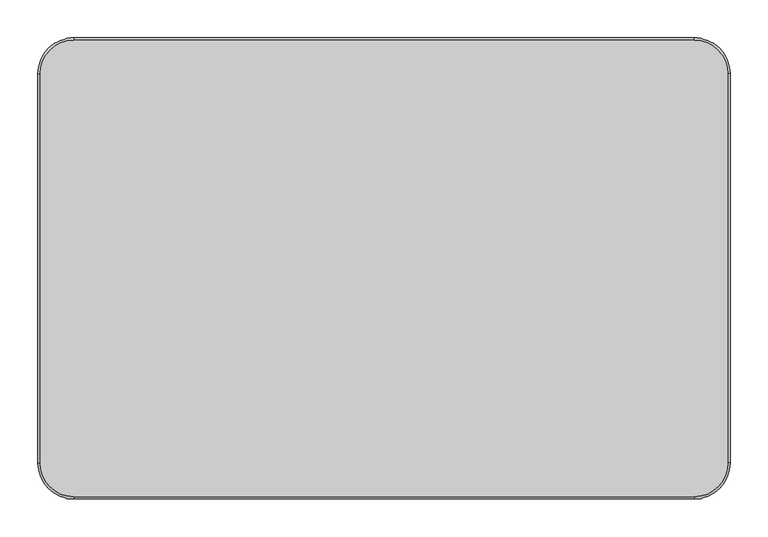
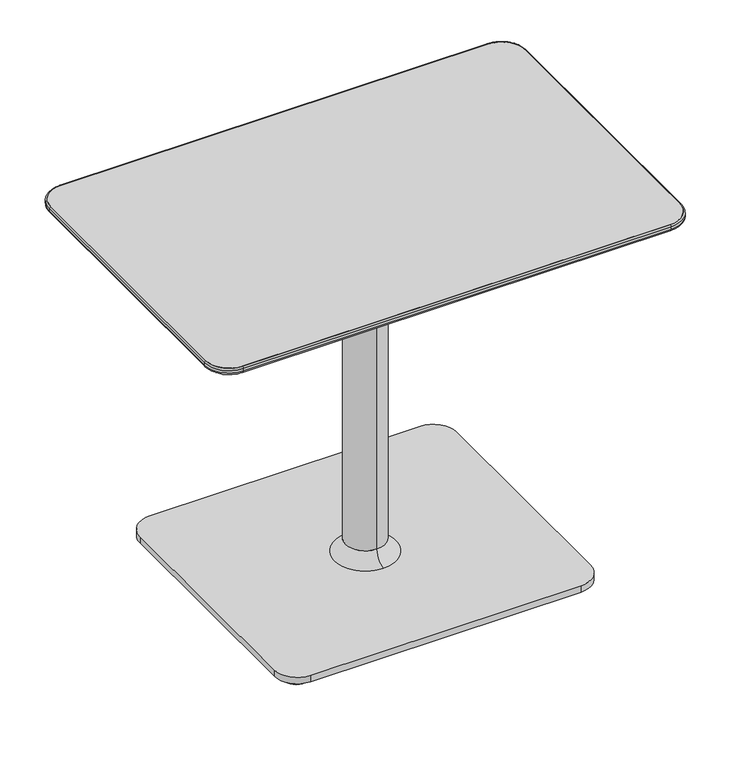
"""IFC4 building model written with IfcOpenShell, lengths in millimetres: furniture geometry, Coalesse_AM_Table_Occasional_Lagunitas_Work : 28.5H x 24D x 36W."""

from ifc_helpers import new_model, si_unit, point, frame, frame_2d, origin, origin_with_axes, place, context, project, spatial, polyline, circle_curve, ellipse_curve, trimmed, segment, composite_curve, outline, extrude, source, transform, mapped, element, save
from ifc_brep_helpers import plane_surface, cylinder_surface, revolved_surface, spline_surface, advanced_brep


def furniture_f47115b3(model_context):
    return source(origin(), model_context, "Body", "SolidModel", [
        advanced_brep(
        [(454.4570059, 257.3038988, 711.8724172), (410.0070059, 301.7538988, 711.8724172), (-409.3969941, 301.7538988, 711.8724172), (-453.8469941, 257.3038988, 711.8724172), (-453.8469941, -257.3038988, 711.8724172), (-409.3969941, -301.7538988, 711.8724172), (410.0070059, -301.7538988, 711.8724172), (454.4570059, -257.3038988, 711.8724172), (386.6389826, 233.9365202, 693.8099277), (386.6389826, -233.9365202, 693.8099277), (-386.0289709, -233.9365202, 693.8099277), (-386.0289709, 233.9365202, 693.8099277)],
        [
            (0, 1, circle_curve(frame((410.0070059, 257.3038988, 711.8724172), z_axis=(0.0, 0.0, 1.0), x_axis=(1.0, 0.0, 0.0)), 44.45)),
            (1, 2),
            (2, 3, circle_curve(frame((-409.3969941, 257.3038988, 711.8724172), z_axis=(0.0, 0.0, 1.0), x_axis=(1.0, 0.0, 0.0)), 44.45)),
            (3, 4),
            (4, 5, circle_curve(frame((-409.3969941, -257.3038988, 711.8724172), z_axis=(0.0, 0.0, 1.0), x_axis=(1.0, 0.0, 0.0)), 44.45)),
            (5, 6),
            (6, 7, circle_curve(frame((410.0070059, -257.3038988, 711.8724172), z_axis=(0.0, 0.0, 1.0), x_axis=(1.0, 0.0, 0.0)), 44.45)),
            (7, 0),
            (8, 9),
            (9, 10),
            (10, 11),
            (11, 8),
            (0, 8),
            (8, 1),
            (11, 2),
            (11, 3),
            (10, 4),
            (10, 5),
            (9, 6),
            (9, 7),
        ],
        [
            plane_surface(frame((0.3050059, 0.0, 711.8724172), z_axis=(0.0, 0.0, 1.0), x_axis=(-1.0, 0.0, 0.0))),
            plane_surface(frame((0.3050059, 0.0, 693.8099277), z_axis=(0.0, 0.0, -1.0), x_axis=(-1.0, 0.0, 0.0))),
            spline_surface(2, 1, [[(386.6389826, 233.9365202, 693.8099277), (454.4570059, 257.3038988, 711.8724172)], [(386.6389826, 233.9365202, 693.8099277), (454.4570059, 301.7538988, 711.8724172)], [(386.6389826, 233.9365202, 693.8099277), (410.0070059, 301.7538988, 711.8724172)]], [3, 3], [2, 2], [0.0, 1.0], [0.0, 1.0], weights=[[1.0, 1.0], [0.7071067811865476, 0.7071067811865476], [1.0, 1.0]]),
            plane_surface(frame((0.3050059, 233.9365202, 693.8099277), z_axis=(0.0, 0.25736805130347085, -0.9663134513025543), x_axis=(-1.0, 0.0, 0.0))),
            spline_surface(2, 1, [[(-386.0289709, 233.9365202, 693.8099277), (-409.3969941, 301.7538988, 711.8724172)], [(-386.0289709, 233.9365202, 693.8099277), (-453.84699409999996, 301.75389879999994, 711.8724172)], [(-386.0289709, 233.9365202, 693.8099277), (-453.8469941, 257.3038988, 711.8724172)]], [3, 3], [2, 2], [0.0, 1.0], [0.0, 1.0], weights=[[1.0, 1.0], [0.707106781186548, 0.707106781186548], [1.0, 1.0]]),
            plane_surface(frame((-386.0289709, 0.0, 693.8099277), z_axis=(-0.2573657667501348, 0.0, -0.9663140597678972), x_axis=(0.0, -1.0, 0.0))),
            spline_surface(2, 1, [[(-386.0289709, -233.9365202, 693.8099277), (-453.8469941, -257.3038988, 711.8724172)], [(-386.0289709, -233.9365202, 693.8099277), (-453.8469941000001, -301.75389880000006, 711.8724172)], [(-386.0289709, -233.9365202, 693.8099277), (-409.3969941, -301.7538988, 711.8724172)]], [3, 3], [2, 2], [0.0, 1.0], [0.0, 1.0], weights=[[1.0, 1.0], [0.7071067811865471, 0.7071067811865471], [1.0, 1.0]]),
            plane_surface(frame((0.3050059, -233.9365202, 693.8099277), z_axis=(0.0, -0.2573680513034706, -0.9663134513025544), x_axis=(1.0, 0.0, 0.0))),
            spline_surface(2, 1, [[(386.6389826, -233.9365202, 693.8099277), (410.0070059, -301.7538988, 711.8724172)], [(386.6389826, -233.9365202, 693.8099277), (454.4570059, -301.7538988, 711.8724172)], [(386.6389826, -233.9365202, 693.8099277), (454.4570059, -257.3038988, 711.8724172)]], [3, 3], [2, 2], [0.0, 1.0], [0.0, 1.0], weights=[[1.0, 1.0], [0.7071067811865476, 0.7071067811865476], [1.0, 1.0]]),
            plane_surface(frame((386.6389826, 0.0, 693.8099277), z_axis=(0.25736576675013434, 0.0, -0.9663140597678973), x_axis=(0.0, 1.0, 0.0))),
        ],
        [
            (0, [[1, 2, 3, 4, 5, 6, 7, 8]]),
            (1, [[9, 10, 11, 12]]),
            (2, [[-1, 13, 14]]),
            (3, [[-12, 15, -2, -14]]),
            (4, [[-3, -15, 16]]),
            (5, [[-11, 17, -4, -16]]),
            (6, [[-5, -17, 18]]),
            (7, [[-10, 19, -6, -18]]),
            (8, [[-7, -19, 20]]),
            (9, [[-9, -13, -8, -20]]),
        ],
    ),
        extrude(outline(composite_curve([segment(trimmed(circle_curve(frame_2d((410.0070059, 257.3038988)), 44.45), [point((410.0070059, 301.7538988))], [point((454.4570059, 257.3038988))], False, "CARTESIAN"), True, "CONTINUOUS"), segment(polyline([(454.4570059, 257.3038988), (454.4570059, -257.3038988)]), True, "CONTINUOUS"), segment(trimmed(circle_curve(frame_2d((410.0070059, -257.3038988)), 44.45), [point((454.4570059, -257.3038988))], [point((410.0070059, -301.7538988))], False, "CARTESIAN"), True, "CONTINUOUS"), segment(polyline([(410.0070059, -301.7538988), (-409.3969941, -301.7538988)]), True, "CONTINUOUS"), segment(trimmed(circle_curve(frame_2d((-409.3969941, -257.3038988)), 44.45), [point((-409.3969941, -301.7538988))], [point((-453.8469941, -257.3038988))], False, "CARTESIAN"), True, "CONTINUOUS"), segment(polyline([(-453.8469941, -257.3038988), (-453.8469941, 257.3038988)]), True, "CONTINUOUS"), segment(trimmed(circle_curve(frame_2d((-409.3969941, 257.3038988)), 44.45), [point((-453.8469941, 257.3038988))], [point((-409.3969941, 301.7538988))], False, "CARTESIAN"), True, "CONTINUOUS"), segment(polyline([(-409.3969941, 301.7538988), (410.0070059, 301.7538988)]), True, "CONTINUOUS")], self_intersect=False)), frame((0.0, 0.0, 711.8724172), z_axis=(0.0, 0.0, 1.0), x_axis=(1.0, 0.0, 0.0)), (0.0, 0.0, 1.0), 12.0275828),
        extrude(outline(composite_curve([segment(trimmed(circle_curve(frame_2d((-263.0703146, 226.8029495)), 25.4), [point((-288.4703146, 226.8029495))], [point((-237.6703146, 226.8029495))], False, "CARTESIAN"), True, "CONTINUOUS"), segment(trimmed(circle_curve(frame_2d((-263.0703146, 226.8029495)), 25.4), [point((-237.6703146, 226.8029495))], [point((-288.4703146, 226.8029495))], False, "CARTESIAN"), True, "CONTINUOUS")], self_intersect=False)), origin_with_axes(), (0.0, 0.0, 1.0), 10.6571495),
        extrude(outline(composite_curve([segment(trimmed(circle_curve(frame_2d((263.6803263, 226.8029495)), 25.4), [point((238.2803263, 226.8029495))], [point((289.0803263, 226.8029495))], False, "CARTESIAN"), True, "CONTINUOUS"), segment(trimmed(circle_curve(frame_2d((263.6803263, 226.8029495)), 25.4), [point((289.0803263, 226.8029495))], [point((238.2803263, 226.8029495))], False, "CARTESIAN"), True, "CONTINUOUS")], self_intersect=False)), origin_with_axes(), (0.0, 0.0, 1.0), 10.6571495),
        extrude(outline(composite_curve([segment(trimmed(circle_curve(frame_2d((263.6803263, -226.8029495)), 25.4), [point((238.2803263, -226.8029495))], [point((289.0803263, -226.8029495))], False, "CARTESIAN"), True, "CONTINUOUS"), segment(trimmed(circle_curve(frame_2d((263.6803263, -226.8029495)), 25.4), [point((289.0803263, -226.8029495))], [point((238.2803263, -226.8029495))], False, "CARTESIAN"), True, "CONTINUOUS")], self_intersect=False)), origin_with_axes(), (0.0, 0.0, 1.0), 10.6571495),
        extrude(outline(composite_curve([segment(trimmed(circle_curve(frame_2d((-263.0703146, -226.8029495)), 25.4), [point((-288.4703146, -226.8029495))], [point((-237.6703146, -226.8029495))], False, "CARTESIAN"), True, "CONTINUOUS"), segment(trimmed(circle_curve(frame_2d((-263.0703146, -226.8029495)), 25.4), [point((-237.6703146, -226.8029495))], [point((-288.4703146, -226.8029495))], False, "CARTESIAN"), True, "CONTINUOUS")], self_intersect=False)), origin_with_axes(), (0.0, 0.0, 1.0), 10.6571495),
        extrude(outline(composite_curve([segment(trimmed(circle_curve(frame_2d((259.1310059, 222.2481833)), 44.45), [point((259.1310059, 266.6981833))], [point((303.5810059, 222.2481833))], False, "CARTESIAN"), True, "CONTINUOUS"), segment(polyline([(303.5810059, 222.2481833), (303.5810059, -222.2481833)]), True, "CONTINUOUS"), segment(trimmed(circle_curve(frame_2d((259.1310059, -222.2481833)), 44.45), [point((303.5810059, -222.2481833))], [point((259.1310059, -266.6981833))], False, "CARTESIAN"), True, "CONTINUOUS"), segment(polyline([(259.1310059, -266.6981833), (-258.5209941, -266.6981833)]), True, "CONTINUOUS"), segment(trimmed(circle_curve(frame_2d((-258.5209941, -222.2481833)), 44.45), [point((-258.5209941, -266.6981833))], [point((-302.9709941, -222.2481833))], False, "CARTESIAN"), True, "CONTINUOUS"), segment(polyline([(-302.9709941, -222.2481833), (-302.9709941, 222.2481833)]), True, "CONTINUOUS"), segment(trimmed(circle_curve(frame_2d((-258.5209941, 222.2481833)), 44.45), [point((-302.9709941, 222.2481833))], [point((-258.5209941, 266.6981833))], False, "CARTESIAN"), True, "CONTINUOUS"), segment(polyline([(-258.5209941, 266.6981833), (259.1310059, 266.6981833)]), True, "CONTINUOUS")], self_intersect=False)), frame((0.0, 0.0, 10.6571495), z_axis=(0.0, 0.0, 1.0), x_axis=(1.0, 0.0, 0.0)), (0.0, 0.0, 1.0), 12.7000004),
        advanced_brep(
        [(-456.8930954, 257.3038988, 715.6656816), (-409.3969941, 304.8, 715.6656816), (-409.3969941, 301.7538988, 711.8724172), (-453.8469941, 257.3038988, 711.8724172), (-456.8930954, 257.3038988, 720.8538988), (-409.3969941, 304.8, 720.8538988), (-453.8469941, 257.3038988, 723.9), (-409.3969941, 301.7538988, 723.9), (-453.8469941, -257.3038988, 711.8724172), (-456.8930954, -257.3038988, 715.6656816), (-456.8930954, -257.3038988, 720.8538988), (-453.8469941, -257.3038988, 723.9), (-409.3969941, -304.8, 715.6656816), (-409.3969941, -301.7538988, 711.8724172), (-409.3969941, -304.8, 720.8538988), (-409.3969941, -301.7538988, 723.9), (410.0070059, -301.7538988, 711.8724172), (410.0070059, -304.8, 715.6656816), (410.0070059, -304.8, 720.8538988), (410.0070059, -301.7538988, 723.9), (457.5031071, -257.3038988, 715.6656816), (454.4570059, -257.3038988, 711.8724172), (457.5031071, -257.3038988, 720.8538988), (454.4570059, -257.3038988, 723.9), (454.4570059, 257.3038988, 711.8724172), (457.5031071, 257.3038988, 715.6656816), (457.5031071, 257.3038988, 720.8538988), (454.4570059, 257.3038988, 723.9), (410.0070059, 304.8, 715.6656816), (410.0070059, 301.7538988, 711.8724172), (410.0070059, 304.8, 720.8538988), (410.0070059, 301.7538988, 723.9)],
        [
            (0, 1, circle_curve(frame((-409.3969941, 257.3038988, 715.6656816), z_axis=(0.0, 0.0, -1.0), x_axis=(0.0, 1.0, 0.0)), 47.4961012)),
            (1, 2, circle_curve(frame((-409.3969941, 300.9151017, 715.6656816), z_axis=(-1.0, 0.0, 0.0), x_axis=(0.0, -1.0, 0.0)), 3.8848983)),
            (2, 3, circle_curve(frame((-409.3969941, 257.3038988, 711.8724172), z_axis=(0.0, 0.0, 1.0), x_axis=(0.0, 1.0, 0.0)), 44.45)),
            (3, 0, circle_curve(frame((-453.0081971, 257.3038988, 715.6656816), z_axis=(0.0, 1.0, 0.0), x_axis=(1.0, 0.0, 0.0)), 3.8848983)),
            (4, 5, circle_curve(frame((-409.3969941, 257.3038988, 720.8538988), z_axis=(0.0, 0.0, -1.0), x_axis=(0.0, 1.0, 0.0)), 47.4961012)),
            (5, 1),
            (0, 4),
            (6, 7, circle_curve(frame((-409.3969941, 257.3038988, 723.9), z_axis=(0.0, 0.0, -1.0), x_axis=(0.0, 1.0, 0.0)), 44.45)),
            (7, 5, circle_curve(frame((-409.3969941, 301.7538988, 720.8538988), z_axis=(-1.0, 0.0, 0.0), x_axis=(0.0, -1.0, 0.0)), 3.0461012)),
            (4, 6, circle_curve(frame((-453.8469941, 257.3038988, 720.8538988), z_axis=(0.0, 1.0, 0.0), x_axis=(1.0, 0.0, 0.0)), 3.0461012)),
            (2, 7),
            (6, 3),
            (3, 8),
            (8, 9, circle_curve(frame((-453.0081971, -257.3038988, 715.6656816), z_axis=(0.0, 1.0, 0.0), x_axis=(1.0, 0.0, 0.0)), 3.8848983)),
            (9, 0),
            (9, 10),
            (10, 4),
            (10, 11, circle_curve(frame((-453.8469941, -257.3038988, 720.8538988), z_axis=(0.0, 1.0, 0.0), x_axis=(1.0, 0.0, 0.0)), 3.0461012)),
            (11, 6),
            (11, 8),
            (12, 9, circle_curve(frame((-409.3969941, -257.3038988, 715.6656816), z_axis=(0.0, 0.0, -1.0), x_axis=(-1.0, 0.0, 0.0)), 47.4961012)),
            (8, 13, circle_curve(frame((-409.3969941, -257.3038988, 711.8724172), z_axis=(0.0, 0.0, 1.0), x_axis=(-1.0, 0.0, 0.0)), 44.45)),
            (13, 12, circle_curve(frame((-409.3969941, -300.9151017, 715.6656816), z_axis=(-1.0, 0.0, 0.0), x_axis=(0.0, 1.0, 0.0)), 3.8848983)),
            (14, 10, circle_curve(frame((-409.3969941, -257.3038988, 720.8538988), z_axis=(0.0, 0.0, -1.0), x_axis=(-1.0, 0.0, 0.0)), 47.4961012)),
            (12, 14),
            (15, 11, circle_curve(frame((-409.3969941, -257.3038988, 723.9), z_axis=(0.0, 0.0, -1.0), x_axis=(-1.0, 0.0, 0.0)), 44.45)),
            (14, 15, circle_curve(frame((-409.3969941, -301.7538988, 720.8538988), z_axis=(-1.0, 0.0, 0.0), x_axis=(0.0, 1.0, 0.0)), 3.0461012)),
            (15, 13),
            (13, 16),
            (16, 17, circle_curve(frame((410.0070059, -300.9151017, 715.6656816), z_axis=(-1.0, 0.0, 0.0), x_axis=(0.0, 1.0, 0.0)), 3.8848983)),
            (17, 12),
            (17, 18),
            (18, 14),
            (18, 19, circle_curve(frame((410.0070059, -301.7538988, 720.8538988), z_axis=(-1.0, 0.0, 0.0), x_axis=(0.0, 1.0, 0.0)), 3.0461012)),
            (19, 15),
            (19, 16),
            (20, 17, circle_curve(frame((410.0070059, -257.3038988, 715.6656816), z_axis=(0.0, 0.0, -1.0), x_axis=(0.0, -1.0, 0.0)), 47.4961012)),
            (16, 21, circle_curve(frame((410.0070059, -257.3038988, 711.8724172), z_axis=(0.0, 0.0, 1.0), x_axis=(0.0, -1.0, 0.0)), 44.45)),
            (21, 20, circle_curve(frame((453.6182088, -257.3038988, 715.6656816), z_axis=(0.0, -1.0, 0.0), x_axis=(-1.0, 0.0, 0.0)), 3.8848983)),
            (22, 18, circle_curve(frame((410.0070059, -257.3038988, 720.8538988), z_axis=(0.0, 0.0, -1.0), x_axis=(0.0, -1.0, 0.0)), 47.4961012)),
            (20, 22),
            (23, 19, circle_curve(frame((410.0070059, -257.3038988, 723.9), z_axis=(0.0, 0.0, -1.0), x_axis=(0.0, -1.0, 0.0)), 44.45)),
            (22, 23, circle_curve(frame((454.4570059, -257.3038988, 720.8538988), z_axis=(0.0, -1.0, 0.0), x_axis=(-1.0, 0.0, 0.0)), 3.0461012)),
            (23, 21),
            (21, 24),
            (24, 25, circle_curve(frame((453.6182088, 257.3038988, 715.6656816), z_axis=(0.0, -1.0, 0.0), x_axis=(-1.0, 0.0, 0.0)), 3.8848983)),
            (25, 20),
            (25, 26),
            (26, 22),
            (26, 27, circle_curve(frame((454.4570059, 257.3038988, 720.8538988), z_axis=(0.0, -1.0, 0.0), x_axis=(-1.0, 0.0, 0.0)), 3.0461012)),
            (27, 23),
            (27, 24),
            (28, 25, circle_curve(frame((410.0070059, 257.3038988, 715.6656816), z_axis=(0.0, 0.0, -1.0), x_axis=(1.0, 0.0, 0.0)), 47.4961012)),
            (24, 29, circle_curve(frame((410.0070059, 257.3038988, 711.8724172), z_axis=(0.0, 0.0, 1.0), x_axis=(1.0, 0.0, 0.0)), 44.45)),
            (29, 28, circle_curve(frame((410.0070059, 300.9151017, 715.6656816), z_axis=(1.0, 0.0, 0.0), x_axis=(0.0, -1.0, 0.0)), 3.8848983)),
            (30, 26, circle_curve(frame((410.0070059, 257.3038988, 720.8538988), z_axis=(0.0, 0.0, -1.0), x_axis=(1.0, 0.0, 0.0)), 47.4961012)),
            (28, 30),
            (31, 27, circle_curve(frame((410.0070059, 257.3038988, 723.9), z_axis=(0.0, 0.0, -1.0), x_axis=(1.0, 0.0, 0.0)), 44.45)),
            (30, 31, circle_curve(frame((410.0070059, 301.7538988, 720.8538988), z_axis=(1.0, 0.0, 0.0), x_axis=(0.0, -1.0, 0.0)), 3.0461012)),
            (31, 29),
            (29, 2),
            (1, 28),
            (5, 30),
            (7, 31),
        ],
        [
            revolved_surface(trimmed(ellipse_curve(frame((-409.3969941, 300.9151017, 715.6656816), z_axis=(1.0, 0.0, 0.0), x_axis=(0.0, -1.0, 0.0)), 3.8848983, 3.8848983), [point((-409.3969941, 301.7538988, 711.8724172))], [point((-409.3969941, 304.8, 715.6656816))], True, "CARTESIAN"), (-409.3969941, 257.3038988, 0.0), (0.0, 0.0, 1.0)),
            cylinder_surface(frame((-409.3969941, 257.3038988, 0.0), z_axis=(0.0, 0.0, 1.0), x_axis=(0.0, 1.0, 0.0)), 47.4961012),
            revolved_surface(trimmed(ellipse_curve(frame((-409.3969941, 301.7538988, 720.8538988), z_axis=(1.0, 0.0, 0.0), x_axis=(0.0, -1.0, 0.0)), 3.0461012, 3.0461012), [point((-409.3969941, 304.8, 720.8538988))], [point((-409.3969941, 301.7538988, 723.9))], True, "CARTESIAN"), (-409.3969941, 257.3038988, 0.0), (0.0, 0.0, 1.0)),
            revolved_surface(polyline([(-409.3969941, 301.7538988, 723.9), (-409.3969941, 301.7538988, 711.8724172)]), (-409.3969941, 257.3038988, 0.0), (0.0, 0.0, 1.0)),
            cylinder_surface(frame((-453.0081971, 257.3038988, 715.6656816), z_axis=(0.0, 1.0, 0.0), x_axis=(1.0, 0.0, 0.0)), 3.8848983),
            plane_surface(frame((-456.8930954, 257.3038988, 715.6656816), z_axis=(-1.0, 0.0, 0.0), x_axis=(0.0, -1.0, 0.0))),
            cylinder_surface(frame((-453.8469941, 257.3038988, 720.8538988), z_axis=(0.0, 1.0, 0.0), x_axis=(1.0, 0.0, 0.0)), 3.0461012),
            plane_surface(frame((-453.8469941, 257.3038988, 723.9), z_axis=(1.0, 0.0, 0.0), x_axis=(0.0, -1.0, 0.0))),
            revolved_surface(trimmed(ellipse_curve(frame((-453.0081971, -257.3038988, 715.6656816), z_axis=(0.0, 1.0, 0.0), x_axis=(1.0, 0.0, 0.0)), 3.8848983, 3.8848983), [point((-453.8469941, -257.3038988, 711.8724172))], [point((-456.8930954, -257.3038988, 715.6656816))], True, "CARTESIAN"), (-409.3969941, -257.3038988, 0.0), (0.0, 0.0, 1.0)),
            cylinder_surface(frame((-409.3969941, -257.3038988, 0.0), z_axis=(0.0, 0.0, 1.0), x_axis=(-1.0, 0.0, 0.0)), 47.4961012),
            revolved_surface(trimmed(ellipse_curve(frame((-453.8469941, -257.3038988, 720.8538988), z_axis=(0.0, 1.0, 0.0), x_axis=(1.0, 0.0, 0.0)), 3.0461012, 3.0461012), [point((-456.8930954, -257.3038988, 720.8538988))], [point((-453.8469941, -257.3038988, 723.9))], True, "CARTESIAN"), (-409.3969941, -257.3038988, 0.0), (0.0, 0.0, 1.0)),
            revolved_surface(polyline([(-453.84699409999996, -257.3038988, 723.9), (-453.84699409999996, -257.3038988, 711.8724172)]), (-409.3969941, -257.3038988, 0.0), (0.0, 0.0, 1.0)),
            cylinder_surface(frame((-409.3969941, -300.9151017, 715.6656816), z_axis=(-1.0, 0.0, 0.0), x_axis=(0.0, 1.0, 0.0)), 3.8848983),
            plane_surface(frame((-409.3969941, -304.8, 715.6656816), z_axis=(0.0, -1.0, 0.0), x_axis=(1.0, 0.0, 0.0))),
            cylinder_surface(frame((-409.3969941, -301.7538988, 720.8538988), z_axis=(-1.0, 0.0, 0.0), x_axis=(0.0, 1.0, 0.0)), 3.0461012),
            plane_surface(frame((-409.3969941, -301.7538988, 723.9), z_axis=(0.0, 1.0, 0.0), x_axis=(1.0, 0.0, 0.0))),
            revolved_surface(trimmed(ellipse_curve(frame((410.0070059, -300.9151017, 715.6656816), z_axis=(-1.0, 0.0, 0.0), x_axis=(0.0, 1.0, 0.0)), 3.8848983, 3.8848983), [point((410.0070059, -301.7538988, 711.8724172))], [point((410.0070059, -304.8, 715.6656816))], True, "CARTESIAN"), (410.0070059, -257.3038988, 0.0), (0.0, 0.0, 1.0)),
            cylinder_surface(frame((410.0070059, -257.3038988, 0.0), z_axis=(0.0, 0.0, 1.0), x_axis=(0.0, -1.0, 0.0)), 47.4961012),
            revolved_surface(trimmed(ellipse_curve(frame((410.0070059, -301.7538988, 720.8538988), z_axis=(-1.0, 0.0, 0.0), x_axis=(0.0, 1.0, 0.0)), 3.0461012, 3.0461012), [point((410.0070059, -304.8, 720.8538988))], [point((410.0070059, -301.7538988, 723.9))], True, "CARTESIAN"), (410.0070059, -257.3038988, 0.0), (0.0, 0.0, 1.0)),
            revolved_surface(polyline([(410.0070059, -301.7538988, 723.9), (410.0070059, -301.7538988, 711.8724172)]), (410.0070059, -257.3038988, 0.0), (0.0, 0.0, 1.0)),
            cylinder_surface(frame((453.6182088, -257.3038988, 715.6656816), z_axis=(0.0, -1.0, 0.0), x_axis=(-1.0, 0.0, 0.0)), 3.8848983),
            plane_surface(frame((457.5031071, -257.3038988, 715.6656816), z_axis=(1.0, 0.0, 0.0), x_axis=(0.0, 1.0, 0.0))),
            cylinder_surface(frame((454.4570059, -257.3038988, 720.8538988), z_axis=(0.0, -1.0, 0.0), x_axis=(-1.0, 0.0, 0.0)), 3.0461012),
            plane_surface(frame((454.4570059, -257.3038988, 723.9), z_axis=(-1.0, 0.0, 0.0), x_axis=(0.0, 1.0, 0.0))),
            revolved_surface(trimmed(ellipse_curve(frame((453.6182088, 257.3038988, 715.6656816), z_axis=(0.0, -1.0, 0.0), x_axis=(-1.0, 0.0, 0.0)), 3.8848983, 3.8848983), [point((454.4570059, 257.3038988, 711.8724172))], [point((457.5031071, 257.3038988, 715.6656816))], True, "CARTESIAN"), (410.0070059, 257.3038988, 0.0), (0.0, 0.0, 1.0)),
            cylinder_surface(frame((410.0070059, 257.3038988, 0.0), z_axis=(0.0, 0.0, 1.0), x_axis=(1.0, 0.0, 0.0)), 47.4961012),
            revolved_surface(trimmed(ellipse_curve(frame((454.4570059, 257.3038988, 720.8538988), z_axis=(0.0, -1.0, 0.0), x_axis=(-1.0, 0.0, 0.0)), 3.0461012, 3.0461012), [point((457.5031071, 257.3038988, 720.8538988))], [point((454.4570059, 257.3038988, 723.9))], True, "CARTESIAN"), (410.0070059, 257.3038988, 0.0), (0.0, 0.0, 1.0)),
            revolved_surface(polyline([(454.4570059, 257.3038988, 723.9), (454.4570059, 257.3038988, 711.8724172)]), (410.0070059, 257.3038988, 0.0), (0.0, 0.0, 1.0)),
            cylinder_surface(frame((410.0070059, 300.9151017, 715.6656816), z_axis=(1.0, 0.0, 0.0), x_axis=(0.0, -1.0, 0.0)), 3.8848983),
            plane_surface(frame((410.0070059, 304.8, 715.6656816), z_axis=(0.0, 1.0, 0.0), x_axis=(-1.0, 0.0, 0.0))),
            cylinder_surface(frame((410.0070059, 301.7538988, 720.8538988), z_axis=(1.0, 0.0, 0.0), x_axis=(0.0, -1.0, 0.0)), 3.0461012),
            plane_surface(frame((410.0070059, 301.7538988, 723.9), z_axis=(0.0, -1.0, 0.0), x_axis=(-1.0, 0.0, 0.0))),
        ],
        [
            (0, [[1, 2, 3, 4]]),
            (1, [[5, 6, -1, 7]]),
            (2, [[8, 9, -5, 10]]),
            (3, [[-3, 11, -8, 12]]),
            (4, [[-4, 13, 14, 15]]),
            (5, [[-7, -15, 16, 17]]),
            (6, [[-10, -17, 18, 19]]),
            (7, [[-12, -19, 20, -13]]),
            (8, [[21, -14, 22, 23]]),
            (9, [[24, -16, -21, 25]]),
            (10, [[26, -18, -24, 27]]),
            (11, [[-22, -20, -26, 28]]),
            (12, [[-23, 29, 30, 31]]),
            (13, [[-25, -31, 32, 33]]),
            (14, [[-27, -33, 34, 35]]),
            (15, [[-28, -35, 36, -29]]),
            (16, [[37, -30, 38, 39]]),
            (17, [[40, -32, -37, 41]]),
            (18, [[42, -34, -40, 43]]),
            (19, [[-38, -36, -42, 44]]),
            (20, [[-39, 45, 46, 47]]),
            (21, [[-41, -47, 48, 49]]),
            (22, [[-43, -49, 50, 51]]),
            (23, [[-44, -51, 52, -45]]),
            (24, [[53, -46, 54, 55]]),
            (25, [[56, -48, -53, 57]]),
            (26, [[58, -50, -56, 59]]),
            (27, [[-54, -52, -58, 60]]),
            (28, [[-55, 61, -2, 62]]),
            (29, [[-57, -62, -6, 63]]),
            (30, [[-59, -63, -9, 64]]),
            (31, [[-60, -64, -11, -61]]),
        ],
    ),
        advanced_brep(
        [(0.3050059, -37.9287895, 564.3567695), (0.3050059, 37.9287895, 564.3567695), (0.3050059, 37.9287895, 50.0429711), (0.3050059, -37.9287895, 50.0429711), (0.3050059, -59.3395816, 602.3698908), (0.3050059, 59.3395816, 602.3698908), (0.3050059, -197.9068019, 686.3534968), (0.3050059, 197.9068019, 686.3534968), (0.3050059, -212.4265152, 690.4101307), (0.3050059, 212.4265152, 690.4101307), (0.3050059, -226.4292749, 690.4101307), (0.3050059, 226.4292749, 690.4101307), (0.3050059, -228.4774392, 693.8099277), (0.3050059, 228.4774392, 693.8099277), (0.3050059, 0.0, 693.8099277), (0.3050059, -60.2304855, 23.3571499), (0.3050059, 60.2304855, 23.3571499), (0.3050059, 0.0, 23.3571499)],
        [
            (0, 1, circle_curve(frame((0.3050059, 0.0, 564.3567695), z_axis=(0.0, 0.0, -1.0), x_axis=(0.0, 1.0, 0.0)), 37.9287895)),
            (1, 2),
            (2, 3, circle_curve(frame((0.3050059, 0.0, 50.0429711), z_axis=(0.0, 0.0, 1.0), x_axis=(0.0, 1.0, 0.0)), 37.9287895)),
            (3, 0),
            (1, 0, circle_curve(frame((0.3050059, 0.0, 564.3567695), z_axis=(0.0, 0.0, -1.0), x_axis=(0.0, 1.0, 0.0)), 37.9287895)),
            (3, 2, circle_curve(frame((0.3050059, 0.0, 50.0429711), z_axis=(0.0, 0.0, 1.0), x_axis=(0.0, 1.0, 0.0)), 37.9287895)),
            (4, 5, circle_curve(frame((0.3050059, 0.0, 602.3698908), z_axis=(0.0, 0.0, -1.0), x_axis=(0.0, 1.0, 0.0)), 59.3395816)),
            (5, 1, circle_curve(frame((0.3050059, 82.3787895, 564.3567695), z_axis=(1.0, 0.0, 0.0), x_axis=(0.0, 1.0, 0.0)), 44.45)),
            (0, 4, circle_curve(frame((0.3050059, -82.3787895, 564.3567695), z_axis=(1.0, 0.0, 0.0), x_axis=(0.0, -1.0, 0.0)), 44.45)),
            (5, 4, circle_curve(frame((0.3050059, 0.0, 602.3698908), z_axis=(0.0, 0.0, -1.0), x_axis=(0.0, 1.0, 0.0)), 59.3395816)),
            (6, 7, circle_curve(frame((0.3050059, 0.0, 686.3534968), z_axis=(0.0, 0.0, -1.0), x_axis=(0.0, 1.0, 0.0)), 197.9068019)),
            (7, 5),
            (4, 6),
            (7, 6, circle_curve(frame((0.3050059, 0.0, 686.3534968), z_axis=(0.0, 0.0, -1.0), x_axis=(0.0, 1.0, 0.0)), 197.9068019)),
            (8, 9, circle_curve(frame((0.3050059, 0.0, 690.4101307), z_axis=(0.0, 0.0, -1.0), x_axis=(0.0, 1.0, 0.0)), 212.4265152)),
            (9, 7, circle_curve(frame((0.3050059, 212.4265152, 662.3969605), z_axis=(1.0, 0.0, 0.0), x_axis=(0.0, 1.0, 0.0)), 28.0131702)),
            (6, 8, circle_curve(frame((0.3050059, -212.4265152, 662.3969605), z_axis=(1.0, 0.0, 0.0), x_axis=(0.0, -1.0, 0.0)), 28.0131702)),
            (9, 8, circle_curve(frame((0.3050059, 0.0, 690.4101307), z_axis=(0.0, 0.0, -1.0), x_axis=(0.0, 1.0, 0.0)), 212.4265152)),
            (10, 11, circle_curve(frame((0.3050059, 0.0, 690.4101307), z_axis=(0.0, 0.0, -1.0), x_axis=(0.0, 1.0, 0.0)), 226.4292749)),
            (11, 9),
            (8, 10),
            (11, 10, circle_curve(frame((0.3050059, 0.0, 690.4101307), z_axis=(0.0, 0.0, -1.0), x_axis=(0.0, 1.0, 0.0)), 226.4292749)),
            (12, 13, circle_curve(frame((0.3050059, 0.0, 693.8099277), z_axis=(0.0, 0.0, -1.0), x_axis=(0.0, 1.0, 0.0)), 228.4774392)),
            (13, 11, circle_curve(frame((0.3050059, 226.4292749, 692.7269744), z_axis=(-1.0, 0.0, 0.0), x_axis=(0.0, 1.0, 0.0)), 2.3168437)),
            (10, 12, circle_curve(frame((0.3050059, -226.4292749, 692.7269744), z_axis=(-1.0, 0.0, 0.0), x_axis=(0.0, -1.0, 0.0)), 2.3168437)),
            (13, 12, circle_curve(frame((0.3050059, 0.0, 693.8099277), z_axis=(0.0, 0.0, -1.0), x_axis=(0.0, 1.0, 0.0)), 228.4774392)),
            (14, 13),
            (12, 14),
            (15, 16, circle_curve(frame((0.3050059, 0.0, 23.3571499), z_axis=(0.0, 0.0, -1.0), x_axis=(0.0, 1.0, 0.0)), 60.2304855)),
            (16, 17),
            (17, 15),
            (16, 15, circle_curve(frame((0.3050059, 0.0, 23.3571499), z_axis=(0.0, 0.0, -1.0), x_axis=(0.0, 1.0, 0.0)), 60.2304855)),
            (2, 16, circle_curve(frame((0.3050059, 65.045532, 50.0429711), z_axis=(1.0, 0.0, 0.0), x_axis=(0.0, 1.0, 0.0)), 27.1167425)),
            (15, 3, circle_curve(frame((0.3050059, -65.045532, 50.0429711), z_axis=(1.0, 0.0, 0.0), x_axis=(0.0, -1.0, 0.0)), 27.1167425)),
        ],
        [
            cylinder_surface(frame((0.3050059, 0.0, 801.7745102), z_axis=(0.0, 0.0, 1.0), x_axis=(0.0, 1.0, 0.0)), 37.9287895),
            revolved_surface(trimmed(ellipse_curve(frame((0.3050059, 82.3787895, 564.3567695), z_axis=(-1.0, 0.0, 0.0), x_axis=(0.0, 1.0, 0.0)), 44.45, 44.45), [point((0.3050059, 37.9287895, 564.3567695))], [point((0.3050059, 59.3395816, 602.3698908))], True, "CARTESIAN"), (0.3050059, 0.0, 801.7745102), (0.0, 0.0, 1.0)),
            revolved_surface(polyline([(0.3050059, 59.3395816, 602.3698908), (0.3050059, 197.9068019, 686.3534968)]), (0.3050059, 0.0, 801.7745102), (0.0, 0.0, 1.0)),
            revolved_surface(trimmed(ellipse_curve(frame((0.3050059, 212.4265152, 662.3969605), z_axis=(-1.0, 0.0, 0.0), x_axis=(0.0, 1.0, 0.0)), 28.0131702, 28.0131702), [point((0.3050059, 197.9068019, 686.3534968))], [point((0.3050059, 212.4265152, 690.4101307))], True, "CARTESIAN"), (0.3050059, 0.0, 801.7745102), (0.0, 0.0, 1.0)),
            plane_surface(frame((0.3050059, 0.0, 690.4101307), z_axis=(0.0, 0.0, -1.0), x_axis=(0.0, 1.0, 0.0))),
            revolved_surface(trimmed(ellipse_curve(frame((0.3050059, 226.4292749, 692.7269744), z_axis=(1.0, 0.0, 0.0), x_axis=(0.0, 1.0, 0.0)), 2.3168437, 2.3168437), [point((0.3050059, 226.4292749, 690.4101307))], [point((0.3050059, 228.4774392, 693.8099277))], True, "CARTESIAN"), (0.3050059, 0.0, 801.7745102), (0.0, 0.0, 1.0)),
            plane_surface(frame((0.3050059, 0.0, 693.8099277), z_axis=(0.0, 0.0, 1.0), x_axis=(0.0, 1.0, 0.0))),
            plane_surface(frame((0.3050059, 0.0, 23.3571499), z_axis=(0.0, 0.0, -1.0), x_axis=(0.0, 1.0, 0.0))),
            revolved_surface(trimmed(ellipse_curve(frame((0.3050059, 65.045532, 50.0429711), z_axis=(-1.0, 0.0, 0.0), x_axis=(0.0, 1.0, 0.0)), 27.1167425, 27.1167425), [point((0.3050059, 60.2304855, 23.3571499))], [point((0.3050059, 37.9287895, 50.0429711))], True, "CARTESIAN"), (0.3050059, 0.0, 801.7745102), (0.0, 0.0, 1.0)),
        ],
        [
            (0, [[1, 2, 3, 4]]),
            (0, [[5, -4, 6, -2]]),
            (1, [[7, 8, -1, 9]]),
            (1, [[10, -9, -5, -8]]),
            (2, [[11, 12, -7, 13]]),
            (2, [[14, -13, -10, -12]]),
            (3, [[15, 16, -11, 17]]),
            (3, [[18, -17, -14, -16]]),
            (4, [[19, 20, -15, 21]]),
            (4, [[22, -21, -18, -20]]),
            (5, [[23, 24, -19, 25]]),
            (5, [[26, -25, -22, -24]]),
            (6, [[27, -23, 28]]),
            (6, [[-28, -26, -27]]),
            (7, [[29, 30, 31]]),
            (7, [[32, -31, -30]]),
            (8, [[-3, 33, -29, 34]]),
            (8, [[-6, -34, -32, -33]]),
        ],
    ),
    ])


if __name__ == "__main__":
    model = new_model("IFC4")
    model_context = context("Model", 3, world=origin())
    ifc_project = project(units=[si_unit("LENGTHUNIT", "METRE", prefix="MILLI")], contexts=[model_context])
    site = spatial("IfcSite", under=ifc_project)
    building = spatial("IfcBuilding", under=site)
    placement = place(None, origin())
    furniture_shape = furniture_f47115b3(model_context)
    element("IfcFurniture", 1, ObjectType="Coalesse_AM_Table_Occasional_Lagunitas_Work : 28.5H x 24D x 36W", at=placement, inside=building, context=model_context, shape_type="MappedRepresentation", body=[
        mapped(furniture_shape, transform((0.0, 0.0, 0.0), x_axis=(1.0, 0.0, 0.0), y_axis=(0.0, 1.0, 0.0), z_axis=(0.0, 0.0, 1.0))),
    ])
    save(model, "model.ifc")
